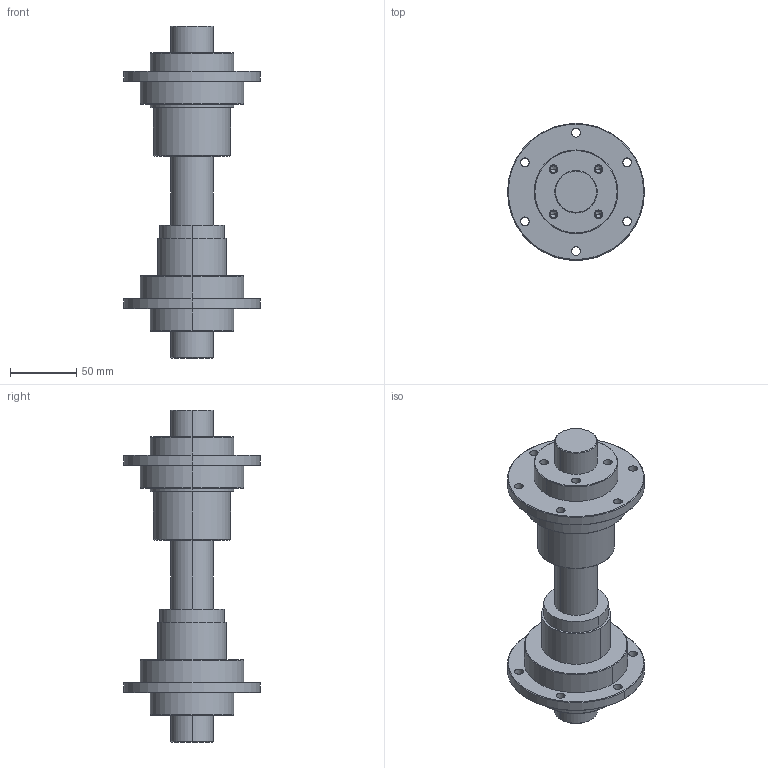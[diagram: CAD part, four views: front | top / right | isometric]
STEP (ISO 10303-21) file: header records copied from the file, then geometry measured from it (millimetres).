
FILE_DESCRIPTION (( 'STEP AP203' ), '1' );
FILE_NAME ('RSSY3232.STEP', '2014-11-13T05:22:32', ( '' ), ( '' ), 'SwSTEP 2.0', 'SolidWorks 2014', '' );
FILE_SCHEMA (( 'CONFIG_CONTROL_DESIGN' ));
Length unit declared in the file: millimetre
Products named in the file (4): RFSY3232; RLSF32; RSSY3232; SC32
Assembly tree (3 placements, depth 2):
  RSSY3232
    SC32
    RFSY3232
    RLSF32
Bounding box: 103 x 103 x 250 mm (x, y, z)
Volume: 638684.4 mm3; surface area: 114696.6 mm2
Topology: 4 solids, 4 shells, 175 faces, 418 edges, 254 vertices
Faces by surface type: cylinder 110, cone 44, plane 21
Entity records: 5476 total; most frequent: DIRECTION 1004, CARTESIAN_POINT 833, ORIENTED_EDGE 796, AXIS2_PLACEMENT_3D 425, EDGE_CURVE 398, VERTEX_POINT 254, CIRCLE 244, EDGE_LOOP 228
